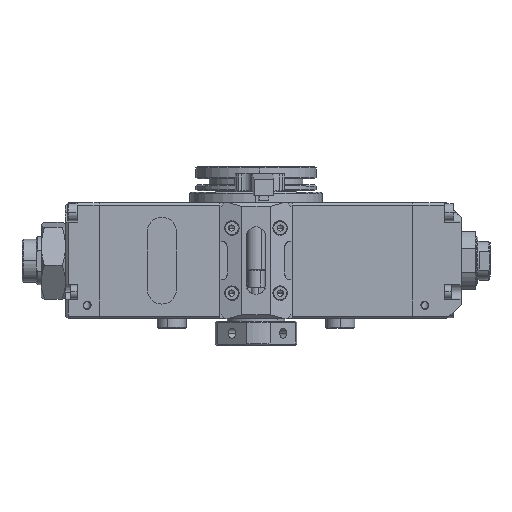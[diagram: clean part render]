
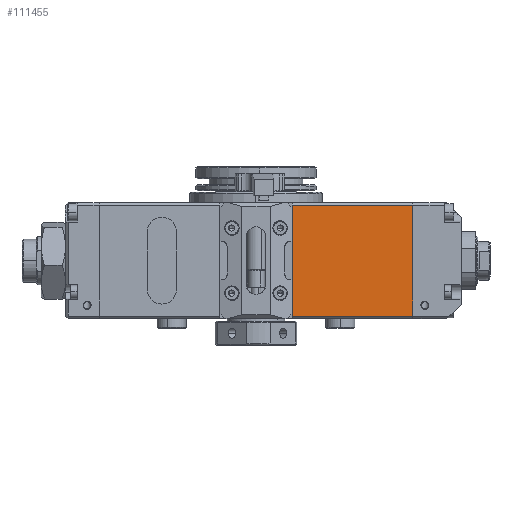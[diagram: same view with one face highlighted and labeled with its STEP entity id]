
A CAD part, top view. The second image highlights one B-rep face of the part: STEP entity #111455.
In plain terms, the highlighted planar face has unit normal (0, 0, 1).
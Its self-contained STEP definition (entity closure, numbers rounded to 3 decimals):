
#8173 = CARTESIAN_POINT ( 'NONE',  ( 65., -24., 45. ) ) ;
#11468 = EDGE_CURVE ( 'NONE', #53645, #80898, #92565, .T. ) ;
#11536 = VECTOR ( 'NONE', #89785, 1000. ) ;
#11844 = CARTESIAN_POINT ( 'NONE',  ( 15., -23., 45. ) ) ;
#20970 = DIRECTION ( 'NONE',  ( 1., 0., 0. ) ) ;
#21847 = VECTOR ( 'NONE', #73614, 1000. ) ;
#22412 = EDGE_CURVE ( 'NONE', #100761, #80898, #93660, .T. ) ;
#24275 = CARTESIAN_POINT ( 'NONE',  ( -65., 23., 45. ) ) ;
#26090 = ORIENTED_EDGE ( 'NONE', *, *, #27112, .T. ) ;
#27112 = EDGE_CURVE ( 'NONE', #100761, #67963, #111244, .T. ) ;
#27617 = ORIENTED_EDGE ( 'NONE', *, *, #22412, .F. ) ;
#28194 = FACE_OUTER_BOUND ( 'NONE', #33624, .T. ) ;
#29203 = CARTESIAN_POINT ( 'NONE',  ( 15., 24., 45. ) ) ;
#33624 = EDGE_LOOP ( 'NONE', ( #42261, #40835, #27617, #26090 ) ) ;
#38884 = CARTESIAN_POINT ( 'NONE',  ( 65., -23., 45. ) ) ;
#40835 = ORIENTED_EDGE ( 'NONE', *, *, #11468, .T. ) ;
#41012 = CARTESIAN_POINT ( 'NONE',  ( 15., 23., 45. ) ) ;
#42261 = ORIENTED_EDGE ( 'NONE', *, *, #64892, .F. ) ;
#42710 = VECTOR ( 'NONE', #20970, 1000. ) ;
#45131 = CARTESIAN_POINT ( 'NONE',  ( 65., 23., 45. ) ) ;
#53645 = VERTEX_POINT ( 'NONE', #11844 ) ;
#55834 = DIRECTION ( 'NONE',  ( 0., 0., 1. ) ) ;
#64892 = EDGE_CURVE ( 'NONE', #53645, #67963, #98184, .T. ) ;
#67963 = VERTEX_POINT ( 'NONE', #41012 ) ;
#73614 = DIRECTION ( 'NONE',  ( 0., -1., 0. ) ) ;
#77353 = CARTESIAN_POINT ( 'NONE',  ( -65., -23., 45. ) ) ;
#80898 = VERTEX_POINT ( 'NONE', #38884 ) ;
#89785 = DIRECTION ( 'NONE',  ( -1., 0., 0. ) ) ;
#92565 = LINE ( 'NONE', #77353, #42710 ) ;
#93660 = LINE ( 'NONE', #8173, #21847 ) ;
#95256 = VECTOR ( 'NONE', #104175, 1000. ) ;
#98184 = LINE ( 'NONE', #29203, #95256 ) ;
#100761 = VERTEX_POINT ( 'NONE', #45131 ) ;
#104175 = DIRECTION ( 'NONE',  ( 0., 1., 0. ) ) ;
#105429 = AXIS2_PLACEMENT_3D ( 'NONE', #112026, #55834, #121500 ) ;
#111244 = LINE ( 'NONE', #24275, #11536 ) ;
#111455 = ADVANCED_FACE ( 'NONE', ( #28194 ), #120692, .T. ) ;
#112026 = CARTESIAN_POINT ( 'NONE',  ( -65., -24., 45. ) ) ;
#120692 = PLANE ( 'NONE',  #105429 ) ;
#121500 = DIRECTION ( 'NONE',  ( 0., -1., 0. ) ) ;
